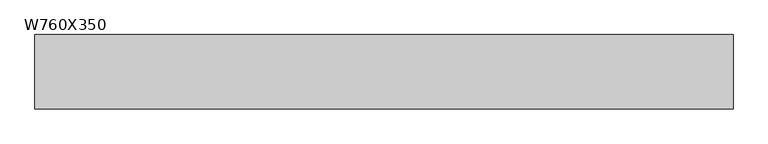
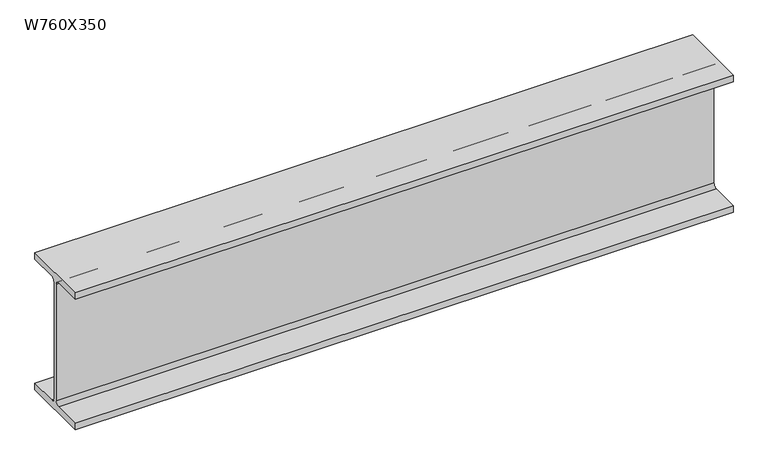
"""IFC4 building model written with IfcOpenShell, lengths in millimetres: beam geometry, M_W-Wide Flange : W760X350."""

from ifc_helpers import new_model, si_unit, point, frame, frame_2d, origin, place, context, project, spatial, polyline, circle_curve, trimmed, segment, composite_curve, outline, extrude, source, transform, mapped, element, save


def w760x350_679bfba7(model_context):
    return source(origin(), model_context, "Body", "SweptSolid", [
        extrude(outline(composite_curve([segment(polyline([(192.0, -359.4), (192.0, -397.5), (-192.0, -397.5), (-192.0, -359.4), (-32.75, -359.4)]), True, "CONTINUOUS"), segment(trimmed(circle_curve(frame_2d((-32.75, -337.2)), 22.2), [point((-32.75, -359.4))], [point((-10.55, -337.2))], True, "CARTESIAN"), True, "CONTINUOUS"), segment(polyline([(-10.55, -337.2), (-10.55, 337.2)]), True, "CONTINUOUS"), segment(trimmed(circle_curve(frame_2d((-32.75, 337.2)), 22.2), [point((-10.55, 337.2))], [point((-32.75, 359.4))], True, "CARTESIAN"), True, "CONTINUOUS"), segment(polyline([(-32.75, 359.4), (-192.0, 359.4), (-192.0, 397.5), (192.0, 397.5), (192.0, 359.4), (32.75, 359.4)]), True, "CONTINUOUS"), segment(trimmed(circle_curve(frame_2d((32.75, 337.2)), 22.2), [point((32.75, 359.4))], [point((10.55, 337.2))], True, "CARTESIAN"), True, "CONTINUOUS"), segment(polyline([(10.55, 337.2), (10.55, -337.2)]), True, "CONTINUOUS"), segment(trimmed(circle_curve(frame_2d((32.75, -337.2)), 22.2), [point((10.55, -337.2))], [point((32.75, -359.4))], True, "CARTESIAN"), True, "CONTINUOUS"), segment(polyline([(32.75, -359.4), (192.0, -359.4)]), True, "CONTINUOUS")], self_intersect=False)), frame((-1803.9820617, 0.0, 0.0), z_axis=(1.0, 0.0, 0.0), x_axis=(0.0, 1.0, 0.0)), (0.0, 0.0, 1.0), 3607.9641233),
    ])


if __name__ == "__main__":
    model = new_model("IFC4")
    model_context = context("Model", 3, world=origin())
    ifc_project = project(units=[si_unit("LENGTHUNIT", "METRE", prefix="MILLI")], contexts=[model_context])
    site = spatial("IfcSite", under=ifc_project)
    building = spatial("IfcBuilding", under=site)
    placement = place(None, origin())
    w760x350_shape = w760x350_679bfba7(model_context)
    element("IfcBeam", 1, ObjectType="M_W-Wide Flange : W760X350", at=placement, inside=building, context=model_context, shape_type="MappedRepresentation", body=[
        mapped(w760x350_shape, transform((0.0, 0.0, 0.0), x_axis=(1.0, 0.0, 0.0), y_axis=(0.0, 1.0, 0.0), z_axis=(0.0, 0.0, 1.0))),
    ])
    save(model, "model.ifc")
